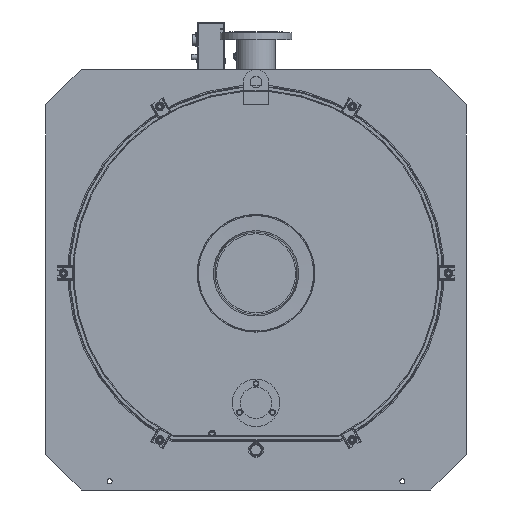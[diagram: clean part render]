
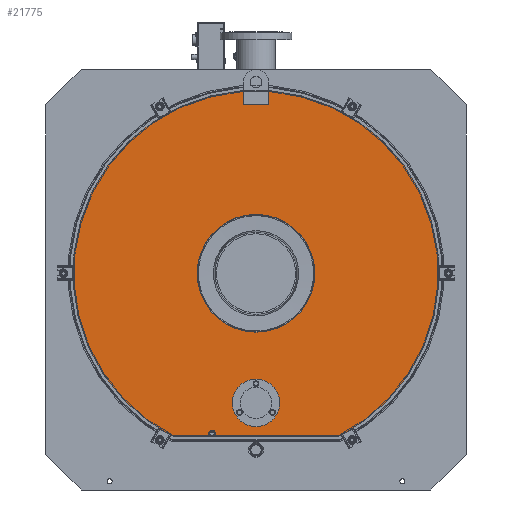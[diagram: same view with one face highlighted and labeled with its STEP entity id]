
A CAD part, left-side view. The second image highlights one B-rep face of the part: STEP entity #21775.
In plain terms, the highlighted planar face has unit normal (-1, 0, 0).
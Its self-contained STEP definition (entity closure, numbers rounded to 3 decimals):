
#21775=ADVANCED_FACE('',(#62681,#62683,#62685),#62687,.T.);
#62681=FACE_BOUND('',#62682,.T.);
#62682=EDGE_LOOP('',(#83067,#83068,#83069,#83070,#83071,#83072,#83073,#83074,#83075,
#83076));
#62683=FACE_BOUND('',#62684,.T.);
#62684=EDGE_LOOP('',(#83077));
#62685=FACE_BOUND('',#62686,.T.);
#62686=EDGE_LOOP('',(#83078));
#62687=PLANE('',#62688);
#62688=AXIS2_PLACEMENT_3D('',#62689,#62690,#62691);
#62689=CARTESIAN_POINT('',(-2438.,0.,0.));
#62690=DIRECTION('',(-1.,0.,0.));
#62691=DIRECTION('',(0.,-1.,0.));
#83067=ORIENTED_EDGE('',*,*,#92481,.F.);
#83068=ORIENTED_EDGE('',*,*,#92482,.F.);
#83069=ORIENTED_EDGE('',*,*,#92483,.F.);
#83070=ORIENTED_EDGE('',*,*,#92484,.T.);
#83071=ORIENTED_EDGE('',*,*,#92485,.T.);
#83072=ORIENTED_EDGE('',*,*,#92486,.T.);
#83073=ORIENTED_EDGE('',*,*,#92451,.T.);
#83074=ORIENTED_EDGE('',*,*,#92480,.T.);
#83075=ORIENTED_EDGE('',*,*,#92487,.T.);
#83076=ORIENTED_EDGE('',*,*,#92488,.T.);
#83077=ORIENTED_EDGE('',*,*,#92461,.T.);
#83078=ORIENTED_EDGE('',*,*,#92489,.F.);
#92451=EDGE_CURVE('',#103697,#103695,#103698,.F.);
#92461=EDGE_CURVE('',#103715,#103715,#103716,.F.);
#92480=EDGE_CURVE('',#103695,#103747,#103749,.F.);
#92481=EDGE_CURVE('',#103750,#103751,#103752,.T.);
#92482=EDGE_CURVE('',#103753,#103750,#103754,.T.);
#92483=EDGE_CURVE('',#103755,#103753,#103756,.T.);
#92484=EDGE_CURVE('',#103755,#103757,#103758,.T.);
#92485=EDGE_CURVE('',#103757,#103759,#103760,.T.);
#92486=EDGE_CURVE('',#103759,#103697,#103761,.F.);
#92487=EDGE_CURVE('',#103747,#103762,#103763,.T.);
#92488=EDGE_CURVE('',#103762,#103751,#103764,.T.);
#92489=EDGE_CURVE('',#103765,#103765,#103766,.T.);
#103695=VERTEX_POINT('',#142408);
#103697=VERTEX_POINT('',#142412);
#103698=CIRCLE('',#142413,11.);
#103715=VERTEX_POINT('',#142713);
#103716=CIRCLE('',#142714,201.);
#103747=VERTEX_POINT('',#143047);
#103749=LINE('',#143051,#143052);
#103750=VERTEX_POINT('',#143054);
#103751=VERTEX_POINT('',#143055);
#103752=LINE('',#143056,#143057);
#103753=VERTEX_POINT('',#143059);
#103754=LINE('',#143060,#143061);
#103755=VERTEX_POINT('',#143063);
#103756=LINE('',#143064,#143065);
#103757=VERTEX_POINT('',#143067);
#103758=CIRCLE('',#143068,625.);
#103759=VERTEX_POINT('',#143072);
#103760=LINE('',#143073,#143074);
#103761=LINE('',#143076,#143077);
#103762=VERTEX_POINT('',#143079);
#103763=LINE('',#143080,#143081);
#103764=CIRCLE('',#143083,625.);
#103765=VERTEX_POINT('',#143087);
#103766=CIRCLE('',#143088,81.);
#142408=CARTESIAN_POINT('',(-2438.,145.417,-556.5));
#142412=CARTESIAN_POINT('',(-2438.,154.583,-556.5));
#142413=AXIS2_PLACEMENT_3D('',#142414,#142415,#142416);
#142414=CARTESIAN_POINT('',(-2438.,150.,-546.5));
#142415=DIRECTION('',(-1.,0.,0.));
#142416=DIRECTION('',(0.,-0.417,-0.909));
#142713=CARTESIAN_POINT('',(-2438.,-201.,0.));
#142714=AXIS2_PLACEMENT_3D('',#142715,#142716,#142717);
#142715=CARTESIAN_POINT('',(-2438.,0.,0.));
#142716=DIRECTION('',(-1.,0.,0.));
#142717=DIRECTION('',(0.,-1.,0.));
#143047=CARTESIAN_POINT('',(-2438.,145.417,-557.5));
#143051=CARTESIAN_POINT('',(-2438.,145.417,-557.5));
#143052=VECTOR('',#143053,1.);
#143053=DIRECTION('',(0.,0.,1.));
#143054=CARTESIAN_POINT('',(-2438.,-43.,577.));
#143055=CARTESIAN_POINT('',(-2438.,-43.,623.519));
#143056=CARTESIAN_POINT('',(-2438.,-43.,577.));
#143057=VECTOR('',#143058,1.);
#143058=DIRECTION('',(0.,0.,1.));
#143059=CARTESIAN_POINT('',(-2438.,43.,577.));
#143060=CARTESIAN_POINT('',(-2438.,43.,577.));
#143061=VECTOR('',#143062,1.);
#143062=DIRECTION('',(0.,-1.,0.));
#143063=CARTESIAN_POINT('',(-2438.,43.,623.519));
#143064=CARTESIAN_POINT('',(-2438.,43.,623.519));
#143065=VECTOR('',#143066,1.);
#143066=DIRECTION('',(0.,0.,-1.));
#143067=CARTESIAN_POINT('',(-2438.,282.522,-557.5));
#143068=AXIS2_PLACEMENT_3D('',#143069,#143070,#143071);
#143069=CARTESIAN_POINT('',(-2438.,0.,0.));
#143070=DIRECTION('',(-1.,0.,0.));
#143071=DIRECTION('',(0.,0.069,0.998));
#143072=CARTESIAN_POINT('',(-2438.,154.583,-557.5));
#143073=CARTESIAN_POINT('',(-2438.,282.522,-557.5));
#143074=VECTOR('',#143075,1.);
#143075=DIRECTION('',(0.,-1.,0.));
#143076=CARTESIAN_POINT('',(-2438.,154.583,-556.5));
#143077=VECTOR('',#143078,1.);
#143078=DIRECTION('',(0.,0.,-1.));
#143079=CARTESIAN_POINT('',(-2438.,-282.522,-557.5));
#143080=CARTESIAN_POINT('',(-2438.,145.417,-557.5));
#143081=VECTOR('',#143082,1.);
#143082=DIRECTION('',(0.,-1.,0.));
#143083=AXIS2_PLACEMENT_3D('',#143084,#143085,#143086);
#143084=CARTESIAN_POINT('',(-2438.,0.,0.));
#143085=DIRECTION('',(-1.,0.,0.));
#143086=DIRECTION('',(0.,-0.452,-0.892));
#143087=CARTESIAN_POINT('',(-2438.,-81.,-442.5));
#143088=AXIS2_PLACEMENT_3D('',#143089,#143090,#143091);
#143089=CARTESIAN_POINT('',(-2438.,0.,-442.5));
#143090=DIRECTION('',(-1.,0.,0.));
#143091=DIRECTION('',(0.,-1.,0.));
